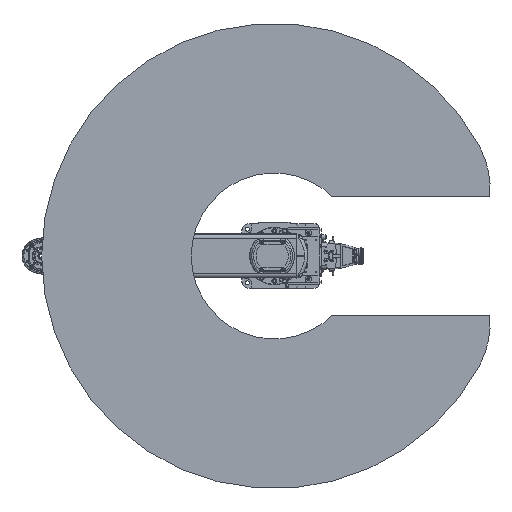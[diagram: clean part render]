
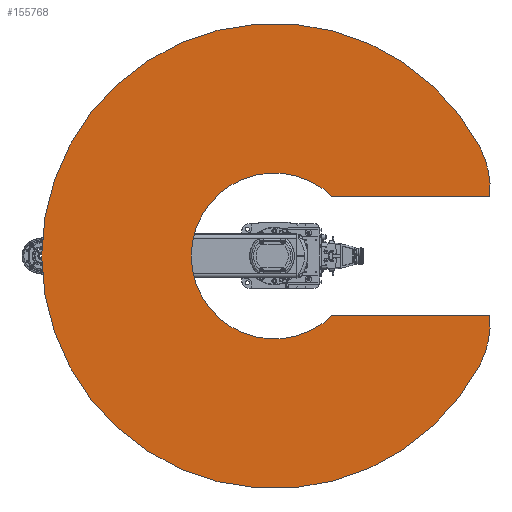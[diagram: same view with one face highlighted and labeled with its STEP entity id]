
A CAD part, front view. The second image highlights one B-rep face of the part: STEP entity #155768.
In plain terms, the highlighted planar face has unit normal (0, -1, 0).
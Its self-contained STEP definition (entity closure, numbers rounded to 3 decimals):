
#2126 = CARTESIAN_POINT ( 'NONE',  ( 0., 0., 0. ) ) ;
#3511 = EDGE_CURVE ( 'NONE', #93283, #104313, #74695, .T. ) ;
#3887 = AXIS2_PLACEMENT_3D ( 'NONE', #81966, #130263, #21690 ) ;
#3894 = CARTESIAN_POINT ( 'NONE',  ( 0., 0., -232. ) ) ;
#6209 = DIRECTION ( 'NONE',  ( 1., 0., 0. ) ) ;
#7235 = CIRCLE ( 'NONE', #118549, 232. ) ;
#14117 = EDGE_CURVE ( 'NONE', #19993, #85012, #137977, .T. ) ;
#15532 = AXIS2_PLACEMENT_3D ( 'NONE', #104993, #20168, #95438 ) ;
#17407 = DIRECTION ( 'NONE',  ( 0., 0., 1. ) ) ;
#18175 = CARTESIAN_POINT ( 'NONE',  ( 0., 0., -650. ) ) ;
#18304 = EDGE_CURVE ( 'NONE', #104313, #50097, #116628, .T. ) ;
#19993 = VERTEX_POINT ( 'NONE', #18175 ) ;
#20168 = DIRECTION ( 'NONE',  ( 0., 1., 0. ) ) ;
#21690 = DIRECTION ( 'NONE',  ( 1., 0., 0. ) ) ;
#26346 = DIRECTION ( 'NONE',  ( 0., 0., -1. ) ) ;
#26870 = EDGE_CURVE ( 'NONE', #85012, #87333, #130353, .T. ) ;
#27826 = CARTESIAN_POINT ( 'NONE',  ( -305.157, 0., 573.916 ) ) ;
#27903 = CARTESIAN_POINT ( 'NONE',  ( 165., 0., 650. ) ) ;
#31834 = ORIENTED_EDGE ( 'NONE', *, *, #78453, .F. ) ;
#34262 = ORIENTED_EDGE ( 'NONE', *, *, #59524, .T. ) ;
#37804 = DIRECTION ( 'NONE',  ( 1., 0., 0. ) ) ;
#44967 = CARTESIAN_POINT ( 'NONE',  ( 165., 0., 163.092 ) ) ;
#46037 = ORIENTED_EDGE ( 'NONE', *, *, #98719, .F. ) ;
#48322 = AXIS2_PLACEMENT_3D ( 'NONE', #58125, #59693, #106464 ) ;
#50097 = VERTEX_POINT ( 'NONE', #3894 ) ;
#50639 = EDGE_LOOP ( 'NONE', ( #91087, #95680, #71190, #31834, #46037, #80151, #116643, #34262 ) ) ;
#53113 = LINE ( 'NONE', #99912, #152580 ) ;
#57169 = CARTESIAN_POINT ( 'NONE',  ( -165., 0., 602.138 ) ) ;
#58125 = CARTESIAN_POINT ( 'NONE',  ( 0., 0., 0. ) ) ;
#59524 = EDGE_CURVE ( 'NONE', #50097, #120140, #7235, .T. ) ;
#59693 = DIRECTION ( 'NONE',  ( 0., 1., 0. ) ) ;
#62103 = AXIS2_PLACEMENT_3D ( 'NONE', #2126, #134471, #37804 ) ;
#66424 = DIRECTION ( 'NONE',  ( 0., 1., 0. ) ) ;
#71190 = ORIENTED_EDGE ( 'NONE', *, *, #14117, .F. ) ;
#74695 = LINE ( 'NONE', #27903, #88058 ) ;
#76789 = CARTESIAN_POINT ( 'NONE',  ( 93.894, 0., 176.59 ) ) ;
#77709 = DIRECTION ( 'NONE',  ( 0., 1., 0. ) ) ;
#78453 = EDGE_CURVE ( 'NONE', #116740, #19993, #126829, .T. ) ;
#80151 = ORIENTED_EDGE ( 'NONE', *, *, #3511, .T. ) ;
#81966 = CARTESIAN_POINT ( 'NONE',  ( -187.789, 0., 353.179 ) ) ;
#83240 = AXIS2_PLACEMENT_3D ( 'NONE', #85997, #133474, #99427 ) ;
#85012 = VERTEX_POINT ( 'NONE', #27826 ) ;
#85997 = CARTESIAN_POINT ( 'NONE',  ( 187.789, 0., 353.179 ) ) ;
#87333 = VERTEX_POINT ( 'NONE', #57169 ) ;
#88058 = VECTOR ( 'NONE', #26346, 1000. ) ;
#91087 = ORIENTED_EDGE ( 'NONE', *, *, #149694, .T. ) ;
#91169 = DIRECTION ( 'NONE',  ( 1., 0., 0. ) ) ;
#91706 = CARTESIAN_POINT ( 'NONE',  ( 305.157, 0., 573.916 ) ) ;
#93283 = VERTEX_POINT ( 'NONE', #94973 ) ;
#94973 = CARTESIAN_POINT ( 'NONE',  ( 165., 0., 602.138 ) ) ;
#95438 = DIRECTION ( 'NONE',  ( 1., 0., 0. ) ) ;
#95680 = ORIENTED_EDGE ( 'NONE', *, *, #26870, .F. ) ;
#98719 = EDGE_CURVE ( 'NONE', #93283, #116740, #151548, .T. ) ;
#99427 = DIRECTION ( 'NONE',  ( 1., 0., 0. ) ) ;
#99912 = CARTESIAN_POINT ( 'NONE',  ( -165., 0., 0. ) ) ;
#100583 = CARTESIAN_POINT ( 'NONE',  ( -165., 0., 163.092 ) ) ;
#103684 = FACE_OUTER_BOUND ( 'NONE', #50639, .T. ) ;
#104313 = VERTEX_POINT ( 'NONE', #44967 ) ;
#104993 = CARTESIAN_POINT ( 'NONE',  ( 0., 0., 0. ) ) ;
#106464 = DIRECTION ( 'NONE',  ( 1., 0., 0. ) ) ;
#114764 = PLANE ( 'NONE',  #143003 ) ;
#116628 = CIRCLE ( 'NONE', #48322, 232. ) ;
#116643 = ORIENTED_EDGE ( 'NONE', *, *, #18304, .T. ) ;
#116740 = VERTEX_POINT ( 'NONE', #91706 ) ;
#118549 = AXIS2_PLACEMENT_3D ( 'NONE', #152129, #77709, #91169 ) ;
#120140 = VERTEX_POINT ( 'NONE', #100583 ) ;
#126829 = CIRCLE ( 'NONE', #15532, 650. ) ;
#130263 = DIRECTION ( 'NONE',  ( 0., 1., 0. ) ) ;
#130353 = CIRCLE ( 'NONE', #3887, 250. ) ;
#133474 = DIRECTION ( 'NONE',  ( 0., 1., 0. ) ) ;
#134471 = DIRECTION ( 'NONE',  ( 0., 1., 0. ) ) ;
#137977 = CIRCLE ( 'NONE', #62103, 650. ) ;
#143003 = AXIS2_PLACEMENT_3D ( 'NONE', #76789, #66424, #6209 ) ;
#149694 = EDGE_CURVE ( 'NONE', #120140, #87333, #53113, .T. ) ;
#151548 = CIRCLE ( 'NONE', #83240, 250. ) ;
#152129 = CARTESIAN_POINT ( 'NONE',  ( 0., 0., 0. ) ) ;
#152580 = VECTOR ( 'NONE', #17407, 1000. ) ;
#155768 = ADVANCED_FACE ( 'NONE', ( #103684 ), #114764, .F. ) ;
